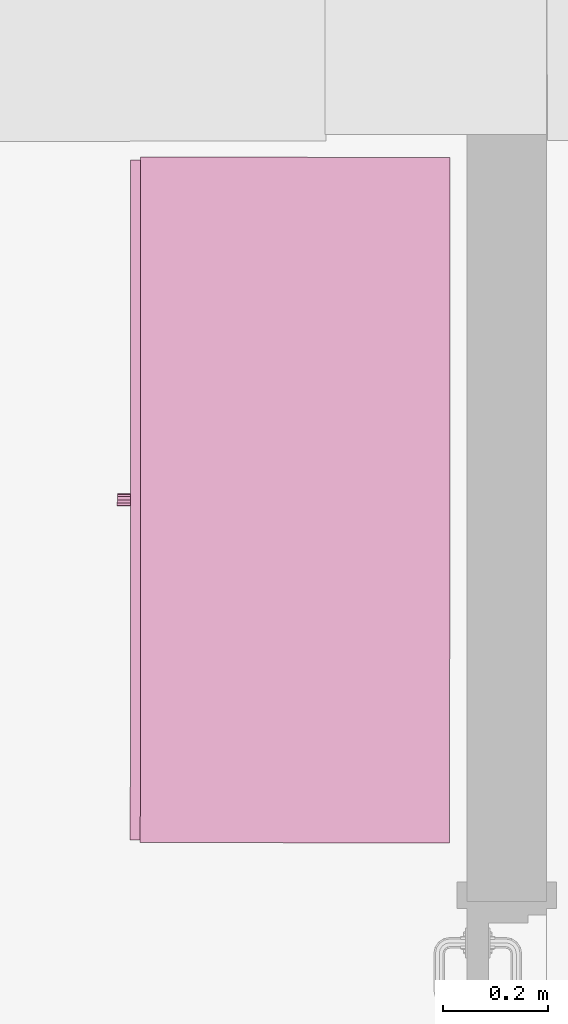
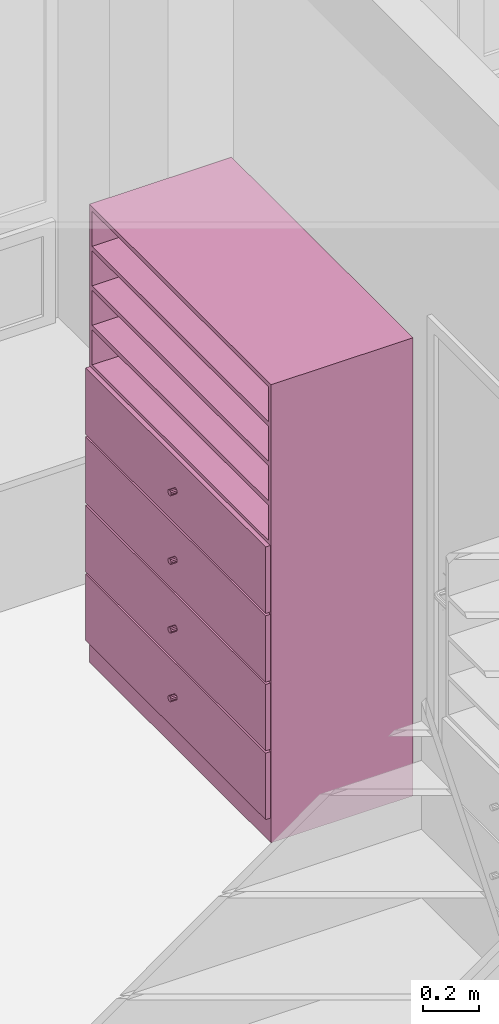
# One storey, part 154 of 194: 1 furnishing.
"""IFC2X3 building model written with IfcOpenShell, lengths in millimetres."""

from ifc_helpers import new_model, entity, si_unit, converted_unit, derived_unit, money_unit, direction, frame, origin_with_axes, place, context, subcontext, project, spatial, faceted_brep, type_object, element, save


model = new_model("IFC2X3")

# Units and contexts
model_context = context("Model", 3, precision=1e-05, world=origin_with_axes(), true_north=direction((0.0, 1.0)))
body_context = subcontext(model_context, "Body", "Model", "MODEL_VIEW")
ifc_project = project(units=[si_unit("LENGTHUNIT", "METRE", prefix="MILLI"), si_unit("AREAUNIT", "SQUARE_METRE"), si_unit("VOLUMEUNIT", "CUBIC_METRE"), converted_unit("PLANEANGLEUNIT", "DEGREE", entity("IfcPlaneAngleMeasure", 0.0174532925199), si_unit("PLANEANGLEUNIT", "RADIAN"), dimensions=[0, 0, 0, 0, 0, 0, 0]), si_unit("SOLIDANGLEUNIT", "STERADIAN"), money_unit("EUR"), converted_unit("TIMEUNIT", "Year", entity("IfcTimeMeasure", 31556926.0), si_unit("TIMEUNIT", "SECOND"), dimensions=[0, 0, 1, 0, 0, 0, 0]), si_unit("MASSUNIT", "GRAM", prefix="KILO"), si_unit("THERMODYNAMICTEMPERATUREUNIT", "DEGREE_CELSIUS"), si_unit("LUMINOUSINTENSITYUNIT", "LUMEN"), si_unit("ENERGYUNIT", "JOULE", prefix="MEGA"), derived_unit("THERMALCONDUCTANCEUNIT", [(si_unit("POWERUNIT", "WATT"), 1), (si_unit("LENGTHUNIT", "METRE"), -1), (si_unit("THERMODYNAMICTEMPERATUREUNIT", "KELVIN"), -1)]), derived_unit("SPECIFICHEATCAPACITYUNIT", [(si_unit("ENERGYUNIT", "JOULE"), 1), (si_unit("MASSUNIT", "GRAM", prefix="KILO"), -1), (si_unit("THERMODYNAMICTEMPERATUREUNIT", "KELVIN"), -1)]), derived_unit("MASSDENSITYUNIT", [(si_unit("MASSUNIT", "GRAM", prefix="KILO"), 1), (si_unit("VOLUMEUNIT", "CUBIC_METRE"), -1)])], contexts=[model_context])

# Site, building, storey
site_placement = place(None, origin_with_axes())
site = spatial("IfcSite", under=ifc_project, at=site_placement, Name="Site", CompositionType="ELEMENT")
building_placement = place(site_placement, origin_with_axes())
building = spatial("IfcBuilding", under=site, at=building_placement, Name="Building", CompositionType="ELEMENT")
storey_placement = place(building_placement, frame((0.0, 0.0, 3000.0), z_axis=(0.0, 0.0, 1.0), x_axis=(1.0, 0.0, 0.0)))
storey = spatial("IfcBuildingStorey", under=building, at=storey_placement, Name="2 KORRUS", CompositionType="ELEMENT", Elevation=3000.0)

# Furnishing
furnishing_element_type = type_object("IfcFurnishingElementType", Name="Model Element 19")
furnishing_placement = place(storey_placement, frame((18366.0663582, 46429.6975444, 0.0), z_axis=(0.0, 0.0, 1.0), x_axis=(-0.000642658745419, -0.999999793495, 0.0)))
element("IfcFurnishingElement", 1, at=furnishing_placement, inside=storey, type_object=furnishing_element_type, Name="FU - 001", context=body_context, shape_type="Brep", body=[
    faceted_brep([(1300.0, 19.0, 0.0), (0.0, 19.0, 0.0), (0.0, 605.7383933, 0.0), (1300.0, 605.7383933, 0.0), (1300.0, 19.0, 100.0), (0.0, 19.0, 100.0), (0.0, 605.7383933, 100.0), (1300.0, 605.7383933, 100.0)], [[[0, 1, 2, 3]], [[1, 0, 4, 5]], [[2, 1, 5, 6]], [[3, 2, 6, 7]], [[0, 3, 7, 4]], [[5, 4, 7, 6]]]),
    faceted_brep([(19.0, 605.7383933, 119.0), (19.0, 586.7383933, 119.0), (19.0, 586.7383933, 1981.0), (19.0, 605.7383933, 1981.0), (1281.0, 605.7383933, 119.0), (1281.0, 586.7383933, 119.0), (1281.0, 586.7383933, 1981.0), (1281.0, 605.7383933, 1981.0)], [[[0, 1, 2, 3]], [[0, 4, 5, 1]], [[1, 5, 6, 2]], [[3, 2, 6, 7]], [[4, 0, 3, 7]], [[5, 4, 7, 6]]]),
    faceted_brep([(1300.0, 19.0, 100.0), (1281.0, 19.0, 100.0), (1281.0, 605.7383933, 100.0), (1300.0, 605.7383933, 100.0), (1300.0, 19.0, 2000.0), (1281.0, 19.0, 2000.0), (1281.0, 605.7383933, 2000.0), (1300.0, 605.7383933, 2000.0)], [[[0, 1, 2, 3]], [[1, 0, 4, 5]], [[2, 1, 5, 6]], [[3, 2, 6, 7]], [[0, 3, 7, 4]], [[5, 4, 7, 6]]]),
    faceted_brep([(19.0, 19.0, 100.0), (0.0, 19.0, 100.0), (0.0, 605.7383933, 100.0), (19.0, 605.7383933, 100.0), (19.0, 19.0, 2000.0), (0.0, 19.0, 2000.0), (0.0, 605.7383933, 2000.0), (19.0, 605.7383933, 2000.0)], [[[0, 1, 2, 3]], [[1, 0, 4, 5]], [[2, 1, 5, 6]], [[3, 2, 6, 7]], [[0, 3, 7, 4]], [[5, 4, 7, 6]]]),
    faceted_brep([(1281.0, 19.0, 100.0), (19.0, 19.0, 100.0), (19.0, 605.7383933, 100.0), (1281.0, 605.7383933, 100.0), (1281.0, 19.0, 119.0), (19.0, 19.0, 119.0), (19.0, 605.7383933, 119.0), (1281.0, 605.7383933, 119.0)], [[[0, 1, 2, 3]], [[1, 0, 4, 5]], [[2, 1, 5, 6]], [[3, 2, 6, 7]], [[0, 3, 7, 4]], [[5, 4, 7, 6]]]),
    faceted_brep([(1281.0, 19.0, 1981.0), (19.0, 19.0, 1981.0), (19.0, 605.7383933, 1981.0), (1281.0, 605.7383933, 1981.0), (1281.0, 19.0, 2000.0), (19.0, 19.0, 2000.0), (19.0, 605.7383933, 2000.0), (1281.0, 605.7383933, 2000.0)], [[[0, 1, 2, 3]], [[1, 0, 4, 5]], [[2, 1, 5, 6]], [[3, 2, 6, 7]], [[0, 3, 7, 4]], [[5, 4, 7, 6]]]),
    faceted_brep([(5.0, 19.0, 105.0), (1295.0, 19.0, 105.0), (1295.0, 0.0, 105.0), (5.0, 0.0, 105.0), (5.0, 19.0, 395.0), (1295.0, 19.0, 395.0), (1295.0, 0.0, 395.0), (5.0, 0.0, 395.0)], [[[0, 1, 2, 3]], [[0, 4, 5, 1]], [[1, 5, 6, 2]], [[3, 2, 6, 7]], [[4, 0, 3, 7]], [[5, 4, 7, 6]]]),
    faceted_brep([(660.392304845, 0.0, 244.0), (656.0, 0.0, 239.607695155), (650.0, 0.0, 238.0), (644.0, 0.0, 239.607695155), (639.607695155, 0.0, 244.0), (638.0, 0.0, 250.0), (639.607695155, 0.0, 256.0), (644.0, 0.0, 260.392304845), (650.0, 0.0, 262.0), (656.0, 0.0, 260.392304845), (660.392304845, 0.0, 256.0), (662.0, 0.0, 250.0), (660.392304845, -25.0, 244.0), (656.0, -25.0, 239.607695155), (650.0, -25.0, 238.0), (644.0, -25.0, 239.607695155), (639.607695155, -25.0, 244.0), (638.0, -25.0, 250.0), (639.607695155, -25.0, 256.0), (644.0, -25.0, 260.392304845), (650.0, -25.0, 262.0), (656.0, -25.0, 260.392304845), (660.392304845, -25.0, 256.0), (662.0, -25.0, 250.0)], [[[0, 1, 2, 3, 4, 5, 6, 7, 8, 9, 10, 11]], [[1, 0, 12, 13]], [[2, 1, 13, 14]], [[3, 2, 14, 15]], [[4, 3, 15, 16]], [[5, 4, 16, 17]], [[6, 5, 17, 18]], [[7, 6, 18, 19]], [[8, 7, 19, 20]], [[9, 8, 20, 21]], [[10, 9, 21, 22]], [[11, 10, 22, 23]], [[0, 11, 23, 12]], [[12, 23, 22, 21, 20, 19, 18, 17, 16, 15, 14, 13]]]),
    faceted_brep([(5.0, 19.0, 405.0), (1295.0, 19.0, 405.0), (1295.0, 0.0, 405.0), (5.0, 0.0, 405.0), (5.0, 19.0, 695.0), (1295.0, 19.0, 695.0), (1295.0, 0.0, 695.0), (5.0, 0.0, 695.0)], [[[0, 1, 2, 3]], [[0, 4, 5, 1]], [[1, 5, 6, 2]], [[3, 2, 6, 7]], [[4, 0, 3, 7]], [[5, 4, 7, 6]]]),
    faceted_brep([(660.392304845, 0.0, 544.0), (656.0, 0.0, 539.607695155), (650.0, 0.0, 538.0), (644.0, 0.0, 539.607695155), (639.607695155, 0.0, 544.0), (638.0, 0.0, 550.0), (639.607695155, 0.0, 556.0), (644.0, 0.0, 560.392304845), (650.0, 0.0, 562.0), (656.0, 0.0, 560.392304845), (660.392304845, 0.0, 556.0), (662.0, 0.0, 550.0), (660.392304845, -25.0, 544.0), (656.0, -25.0, 539.607695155), (650.0, -25.0, 538.0), (644.0, -25.0, 539.607695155), (639.607695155, -25.0, 544.0), (638.0, -25.0, 550.0), (639.607695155, -25.0, 556.0), (644.0, -25.0, 560.392304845), (650.0, -25.0, 562.0), (656.0, -25.0, 560.392304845), (660.392304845, -25.0, 556.0), (662.0, -25.0, 550.0)], [[[0, 1, 2, 3, 4, 5, 6, 7, 8, 9, 10, 11]], [[1, 0, 12, 13]], [[2, 1, 13, 14]], [[3, 2, 14, 15]], [[4, 3, 15, 16]], [[5, 4, 16, 17]], [[6, 5, 17, 18]], [[7, 6, 18, 19]], [[8, 7, 19, 20]], [[9, 8, 20, 21]], [[10, 9, 21, 22]], [[11, 10, 22, 23]], [[0, 11, 23, 12]], [[12, 23, 22, 21, 20, 19, 18, 17, 16, 15, 14, 13]]]),
    faceted_brep([(5.0, 19.0, 705.0), (1295.0, 19.0, 705.0), (1295.0, 0.0, 705.0), (5.0, 0.0, 705.0), (5.0, 19.0, 995.0), (1295.0, 19.0, 995.0), (1295.0, 0.0, 995.0), (5.0, 0.0, 995.0)], [[[0, 1, 2, 3]], [[0, 4, 5, 1]], [[1, 5, 6, 2]], [[3, 2, 6, 7]], [[4, 0, 3, 7]], [[5, 4, 7, 6]]]),
    faceted_brep([(660.392304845, 0.0, 844.0), (656.0, 0.0, 839.607695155), (650.0, 0.0, 838.0), (644.0, 0.0, 839.607695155), (639.607695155, 0.0, 844.0), (638.0, 0.0, 850.0), (639.607695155, 0.0, 856.0), (644.0, 0.0, 860.392304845), (650.0, 0.0, 862.0), (656.0, 0.0, 860.392304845), (660.392304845, 0.0, 856.0), (662.0, 0.0, 850.0), (660.392304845, -25.0, 844.0), (656.0, -25.0, 839.607695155), (650.0, -25.0, 838.0), (644.0, -25.0, 839.607695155), (639.607695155, -25.0, 844.0), (638.0, -25.0, 850.0), (639.607695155, -25.0, 856.0), (644.0, -25.0, 860.392304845), (650.0, -25.0, 862.0), (656.0, -25.0, 860.392304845), (660.392304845, -25.0, 856.0), (662.0, -25.0, 850.0)], [[[0, 1, 2, 3, 4, 5, 6, 7, 8, 9, 10, 11]], [[1, 0, 12, 13]], [[2, 1, 13, 14]], [[3, 2, 14, 15]], [[4, 3, 15, 16]], [[5, 4, 16, 17]], [[6, 5, 17, 18]], [[7, 6, 18, 19]], [[8, 7, 19, 20]], [[9, 8, 20, 21]], [[10, 9, 21, 22]], [[11, 10, 22, 23]], [[0, 11, 23, 12]], [[12, 23, 22, 21, 20, 19, 18, 17, 16, 15, 14, 13]]]),
    faceted_brep([(5.0, 19.0, 1005.0), (1295.0, 19.0, 1005.0), (1295.0, 0.0, 1005.0), (5.0, 0.0, 1005.0), (5.0, 19.0, 1295.0), (1295.0, 19.0, 1295.0), (1295.0, 0.0, 1295.0), (5.0, 0.0, 1295.0)], [[[0, 1, 2, 3]], [[0, 4, 5, 1]], [[1, 5, 6, 2]], [[3, 2, 6, 7]], [[4, 0, 3, 7]], [[5, 4, 7, 6]]]),
    faceted_brep([(660.392304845, 0.0, 1144.0), (656.0, 0.0, 1139.60769515), (650.0, 0.0, 1138.0), (644.0, 0.0, 1139.60769515), (639.607695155, 0.0, 1144.0), (638.0, 0.0, 1150.0), (639.607695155, 0.0, 1156.0), (644.0, 0.0, 1160.39230485), (650.0, 0.0, 1162.0), (656.0, 0.0, 1160.39230485), (660.392304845, 0.0, 1156.0), (662.0, 0.0, 1150.0), (660.392304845, -25.0, 1144.0), (656.0, -25.0, 1139.60769515), (650.0, -25.0, 1138.0), (644.0, -25.0, 1139.60769515), (639.607695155, -25.0, 1144.0), (638.0, -25.0, 1150.0), (639.607695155, -25.0, 1156.0), (644.0, -25.0, 1160.39230485), (650.0, -25.0, 1162.0), (656.0, -25.0, 1160.39230485), (660.392304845, -25.0, 1156.0), (662.0, -25.0, 1150.0)], [[[0, 1, 2, 3, 4, 5, 6, 7, 8, 9, 10, 11]], [[1, 0, 12, 13]], [[2, 1, 13, 14]], [[3, 2, 14, 15]], [[4, 3, 15, 16]], [[5, 4, 16, 17]], [[6, 5, 17, 18]], [[7, 6, 18, 19]], [[8, 7, 19, 20]], [[9, 8, 20, 21]], [[10, 9, 21, 22]], [[11, 10, 22, 23]], [[0, 11, 23, 12]], [[12, 23, 22, 21, 20, 19, 18, 17, 16, 15, 14, 13]]]),
    faceted_brep([(19.0, 19.0, 390.5), (1281.0, 19.0, 390.5), (1281.0, 19.0, 409.5), (19.0, 19.0, 409.5), (19.0, 586.7383933, 390.5), (1281.0, 586.7383933, 390.5), (1281.0, 586.7383933, 409.5), (19.0, 586.7383933, 409.5)], [[[0, 1, 2, 3]], [[0, 4, 5, 1]], [[1, 5, 6, 2]], [[3, 2, 6, 7]], [[4, 0, 3, 7]], [[5, 4, 7, 6]]]),
    faceted_brep([(19.0, 19.0, 690.5), (1281.0, 19.0, 690.5), (1281.0, 19.0, 709.5), (19.0, 19.0, 709.5), (19.0, 586.7383933, 690.5), (1281.0, 586.7383933, 690.5), (1281.0, 586.7383933, 709.5), (19.0, 586.7383933, 709.5)], [[[0, 1, 2, 3]], [[0, 4, 5, 1]], [[1, 5, 6, 2]], [[3, 2, 6, 7]], [[4, 0, 3, 7]], [[5, 4, 7, 6]]]),
    faceted_brep([(19.0, 19.0, 990.5), (1281.0, 19.0, 990.5), (1281.0, 19.0, 1009.5), (19.0, 19.0, 1009.5), (19.0, 586.7383933, 990.5), (1281.0, 586.7383933, 990.5), (1281.0, 586.7383933, 1009.5), (19.0, 586.7383933, 1009.5)], [[[0, 1, 2, 3]], [[0, 4, 5, 1]], [[1, 5, 6, 2]], [[3, 2, 6, 7]], [[4, 0, 3, 7]], [[5, 4, 7, 6]]]),
    faceted_brep([(19.0, 19.0, 1290.5), (1281.0, 19.0, 1290.5), (1281.0, 19.0, 1309.5), (19.0, 19.0, 1309.5), (19.0, 586.7383933, 1290.5), (1281.0, 586.7383933, 1290.5), (1281.0, 586.7383933, 1309.5), (19.0, 586.7383933, 1309.5)], [[[0, 1, 2, 3]], [[0, 4, 5, 1]], [[1, 5, 6, 2]], [[3, 2, 6, 7]], [[4, 0, 3, 7]], [[5, 4, 7, 6]]]),
    faceted_brep([(1281.0, 19.0, 1463.125), (19.0, 19.0, 1463.125), (19.0, 586.7383933, 1463.125), (1281.0, 586.7383933, 1463.125), (1281.0, 19.0, 1482.125), (19.0, 19.0, 1482.125), (19.0, 586.7383933, 1482.125), (1281.0, 586.7383933, 1482.125)], [[[0, 1, 2, 3]], [[1, 0, 4, 5]], [[2, 1, 5, 6]], [[3, 2, 6, 7]], [[0, 3, 7, 4]], [[5, 4, 7, 6]]]),
    faceted_brep([(1281.0, 19.0, 1635.75), (19.0, 19.0, 1635.75), (19.0, 586.7383933, 1635.75), (1281.0, 586.7383933, 1635.75), (1281.0, 19.0, 1654.75), (19.0, 19.0, 1654.75), (19.0, 586.7383933, 1654.75), (1281.0, 586.7383933, 1654.75)], [[[0, 1, 2, 3]], [[1, 0, 4, 5]], [[2, 1, 5, 6]], [[3, 2, 6, 7]], [[0, 3, 7, 4]], [[5, 4, 7, 6]]]),
    faceted_brep([(1281.0, 19.0, 1808.375), (19.0, 19.0, 1808.375), (19.0, 586.7383933, 1808.375), (1281.0, 586.7383933, 1808.375), (1281.0, 19.0, 1827.375), (19.0, 19.0, 1827.375), (19.0, 586.7383933, 1827.375), (1281.0, 586.7383933, 1827.375)], [[[0, 1, 2, 3]], [[1, 0, 4, 5]], [[2, 1, 5, 6]], [[3, 2, 6, 7]], [[0, 3, 7, 4]], [[5, 4, 7, 6]]]),
])

save(model, "model.ifc")
